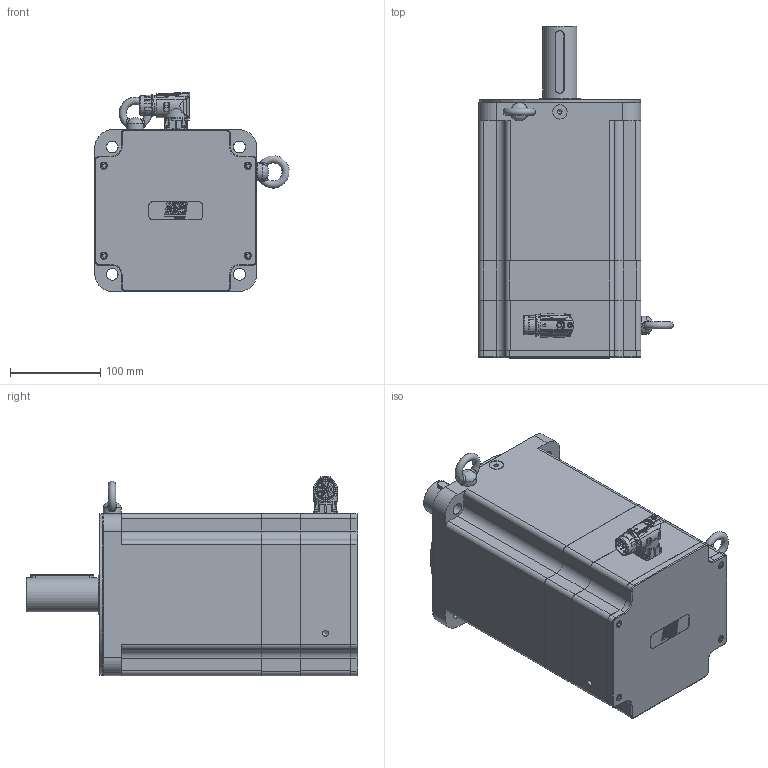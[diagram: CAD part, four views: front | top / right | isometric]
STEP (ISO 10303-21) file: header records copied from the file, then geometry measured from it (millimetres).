
FILE_DESCRIPTION(/* description */ ('Unknown'),/* implementation_level */ '2;1');
FILE_NAME(/* name */ 'TC4-180.7D.X X.X.3.XX.1.X.C21 Q0B807',/* time_stamp */ '2026-03-10T10:55:24+01:00',/* author */ ('Unknown'),/* organization */ ('Unknown'),/* preprocessor_version */ 'ST-DEVELOPER v19.4',/* originating_system */ 'Solid Edge',/* authorisation */ 'Unknown');
FILE_SCHEMA (('AUTOMOTIVE_DESIGN {1 0 10303 214 3 1 1}'));
Products named in the file (15): Q0B807 7D FRENO VUOTO; 005256003057; 003103040231; 003155002233; Coperchio campana TC4-180; 003003199971; 005113001040; 005119001104; 005911000185; 005911000479; 005321000010; 005911000180; 003251040631; 007117000456; Corpo TC4-180 7D
Assembly tree (28 placements, depth 2):
  Q0B807 7D FRENO VUOTO
    005256003057
    003103040231
    003155002233
    Coperchio campana TC4-180
    003003199971
    005113001040
    005119001104
    005911000185  x4
    005911000479  x8
    005321000010  x2
    005911000180  x4
    003251040631
    007117000456
    Corpo TC4-180 7D
Bounding box: 215.98 x 368.5 x 221.5 mm (x, y, z)
Volume: 3600547.7 mm3; surface area: 844967.1 mm2
Topology: 29 solids, 55 shells, 2101 faces, 5609 edges, 3655 vertices
Faces by surface type: plane 900, cylinder 563, bspline 247, cone 227, torus 128, sphere 36
Full cylindrical faces by diameter (mm): 1 x4, 1.4 x4, 2 x4, 2.013 x8, 2.5 x4, 2.8 x4, 3 x8, 3.242 x12, 4 x5, 4.134 x16, 4.2 x8, 4.5 x9, 4.7 x4, 4.917 x8, 5 x8, 5.5 x9, 5.8 x1, 5.9 x1, 6.647 x14, 6.8 x1, 7 x6, 8 x8, 9 x4, 10 x5, 10.106 x2, 14 x4, 16 x1, 17.4 x1, 19.9 x1, 20 x3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
Entity records: 75078 total; most frequent: CARTESIAN_POINT 19513, ORIENTED_EDGE 8968, DIRECTION 8958, EDGE_CURVE 4692, AXIS2_PLACEMENT_3D 3393, VERTEX_POINT 3280, FACE_BOUND 2479, EDGE_LOOP 2449
